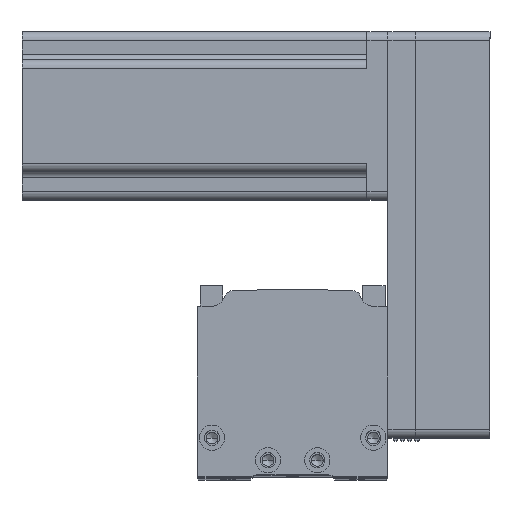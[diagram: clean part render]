
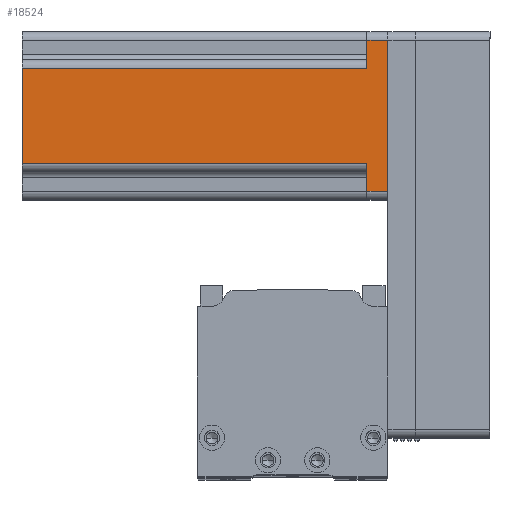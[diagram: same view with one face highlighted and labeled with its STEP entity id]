
A CAD part, top view. The second image highlights one B-rep face of the part: STEP entity #18524.
In plain terms, the highlighted planar face has unit normal (0, 0, 1) as drawn and (0, -1, 0) by its records, which use the part's own axes.
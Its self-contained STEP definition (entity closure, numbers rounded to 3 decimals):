
#9 = VERTEX_POINT ( 'NONE', #9515 ) ;
#42 = AXIS2_PLACEMENT_3D ( 'NONE', #32706, #12151, #36148 ) ;
#626 = EDGE_CURVE ( 'NONE', #35431, #38278, #37437, .T. ) ;
#2019 = LINE ( 'NONE', #32176, #28350 ) ;
#2518 = EDGE_CURVE ( 'NONE', #9, #24824, #23954, .T. ) ;
#2580 = VECTOR ( 'NONE', #17347, 1000. ) ;
#4943 = CARTESIAN_POINT ( 'NONE',  ( -27., -30., 7.5 ) ) ;
#5178 = VECTOR ( 'NONE', #17832, 1000. ) ;
#5768 = ORIENTED_EDGE ( 'NONE', *, *, #2518, .T. ) ;
#5901 = VECTOR ( 'NONE', #36824, 1000. ) ;
#6210 = VECTOR ( 'NONE', #22293, 1000. ) ;
#6446 = CARTESIAN_POINT ( 'NONE',  ( 20., -30., 7.5 ) ) ;
#7925 = VECTOR ( 'NONE', #15035, 1000. ) ;
#9515 = CARTESIAN_POINT ( 'NONE',  ( 27., -30., 7.5 ) ) ;
#10131 = EDGE_CURVE ( 'NONE', #38294, #40050, #35292, .T. ) ;
#11913 = ORIENTED_EDGE ( 'NONE', *, *, #10131, .T. ) ;
#11929 = CARTESIAN_POINT ( 'NONE',  ( -20., -30., 7.5 ) ) ;
#12151 = DIRECTION ( 'NONE',  ( 0., 1., 0. ) ) ;
#12224 = ORIENTED_EDGE ( 'NONE', *, *, #37697, .F. ) ;
#14811 = VECTOR ( 'NONE', #30575, 1000. ) ;
#15035 = DIRECTION ( 'NONE',  ( 0., 0., -1. ) ) ;
#15703 = CARTESIAN_POINT ( 'NONE',  ( 27., -30., 0. ) ) ;
#17235 = EDGE_CURVE ( 'NONE', #24824, #38278, #28918, .T. ) ;
#17347 = DIRECTION ( 'NONE',  ( 0., 0., 1. ) ) ;
#17381 = EDGE_CURVE ( 'NONE', #40050, #23317, #2019, .T. ) ;
#17832 = DIRECTION ( 'NONE',  ( 0., 0., -1. ) ) ;
#18341 = EDGE_CURVE ( 'NONE', #35431, #41105, #23458, .T. ) ;
#18504 = ORIENTED_EDGE ( 'NONE', *, *, #18341, .T. ) ;
#18524 = ADVANCED_FACE ( 'NONE', ( #23978 ), #25620, .F. ) ;
#18688 = CARTESIAN_POINT ( 'NONE',  ( 17., -30., 7.5 ) ) ;
#22080 = CARTESIAN_POINT ( 'NONE',  ( -17., -30., 7.5 ) ) ;
#22293 = DIRECTION ( 'NONE',  ( 1., 0., 0. ) ) ;
#23317 = VERTEX_POINT ( 'NONE', #15703 ) ;
#23458 = LINE ( 'NONE', #38437, #5178 ) ;
#23924 = ORIENTED_EDGE ( 'NONE', *, *, #626, .F. ) ;
#23954 = LINE ( 'NONE', #6446, #14811 ) ;
#23978 = FACE_OUTER_BOUND ( 'NONE', #32631, .T. ) ;
#24456 = LINE ( 'NONE', #11929, #6210 ) ;
#24824 = VERTEX_POINT ( 'NONE', #18688 ) ;
#25620 = PLANE ( 'NONE',  #42 ) ;
#26114 = ORIENTED_EDGE ( 'NONE', *, *, #17235, .T. ) ;
#26927 = ORIENTED_EDGE ( 'NONE', *, *, #32358, .T. ) ;
#27985 = CARTESIAN_POINT ( 'NONE',  ( 17., -30., 130.7 ) ) ;
#28296 = VECTOR ( 'NONE', #36805, 1000. ) ;
#28350 = VECTOR ( 'NONE', #35627, 1000. ) ;
#28918 = LINE ( 'NONE', #27985, #2580 ) ;
#30575 = DIRECTION ( 'NONE',  ( -1., 0., 0. ) ) ;
#31472 = CARTESIAN_POINT ( 'NONE',  ( -17., -30., 130.7 ) ) ;
#32176 = CARTESIAN_POINT ( 'NONE',  ( 30., -30., 0. ) ) ;
#32193 = LINE ( 'NONE', #40397, #5901 ) ;
#32358 = EDGE_CURVE ( 'NONE', #23317, #9, #32193, .T. ) ;
#32631 = EDGE_LOOP ( 'NONE', ( #23924, #18504, #12224, #11913, #42360, #26927, #5768, #26114 ) ) ;
#32706 = CARTESIAN_POINT ( 'NONE',  ( 30., -30., 130.7 ) ) ;
#33348 = CARTESIAN_POINT ( 'NONE',  ( 30., -30., 130.7 ) ) ;
#35292 = LINE ( 'NONE', #42484, #7925 ) ;
#35431 = VERTEX_POINT ( 'NONE', #31472 ) ;
#35627 = DIRECTION ( 'NONE',  ( 1., 0., 0. ) ) ;
#36148 = DIRECTION ( 'NONE',  ( -1., 0., 0. ) ) ;
#36805 = DIRECTION ( 'NONE',  ( 1., 0., 0. ) ) ;
#36824 = DIRECTION ( 'NONE',  ( 0., 0., 1. ) ) ;
#37437 = LINE ( 'NONE', #33348, #28296 ) ;
#37697 = EDGE_CURVE ( 'NONE', #38294, #41105, #24456, .T. ) ;
#38278 = VERTEX_POINT ( 'NONE', #42625 ) ;
#38294 = VERTEX_POINT ( 'NONE', #4943 ) ;
#38437 = CARTESIAN_POINT ( 'NONE',  ( -17., -30., 130.7 ) ) ;
#39714 = CARTESIAN_POINT ( 'NONE',  ( -27., -30., 0. ) ) ;
#40050 = VERTEX_POINT ( 'NONE', #39714 ) ;
#40397 = CARTESIAN_POINT ( 'NONE',  ( 27., -30., 130.7 ) ) ;
#41105 = VERTEX_POINT ( 'NONE', #22080 ) ;
#42360 = ORIENTED_EDGE ( 'NONE', *, *, #17381, .T. ) ;
#42484 = CARTESIAN_POINT ( 'NONE',  ( -27., -30., 130.7 ) ) ;
#42625 = CARTESIAN_POINT ( 'NONE',  ( 17., -30., 130.7 ) ) ;
